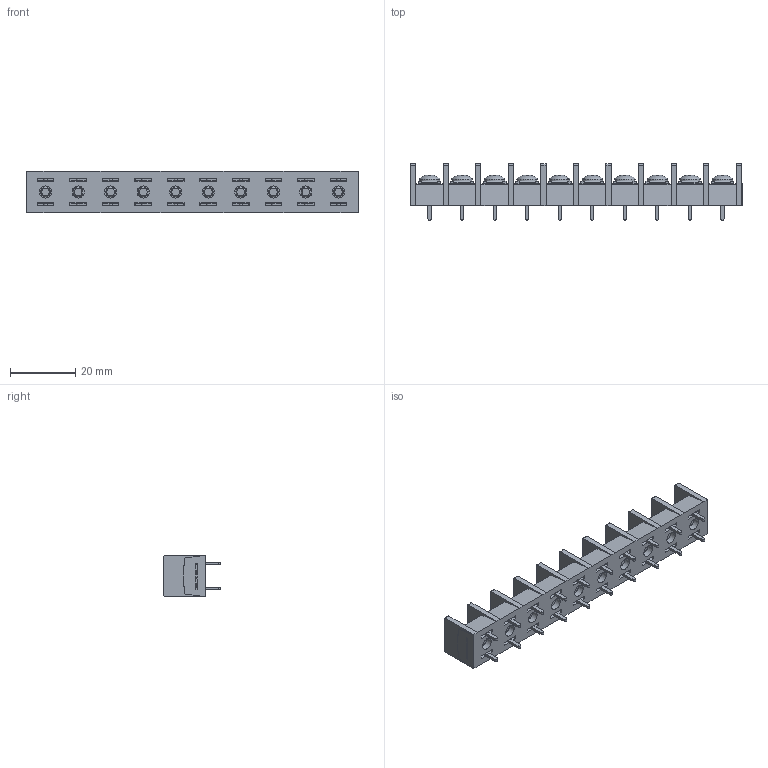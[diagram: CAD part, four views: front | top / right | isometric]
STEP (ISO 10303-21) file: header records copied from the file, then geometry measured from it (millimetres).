
FILE_DESCRIPTION(/* description */ ('Alibre Inc.'),/* implementation_level */ '2;1');
FILE_NAME(/* name */ 'export0',/* time_stamp */ '2015-10-23T18:06:09+09:00',/* author */ (''),/* organization */ (''),/* preprocessor_version */ 'ST-DEVELOPER v14',/* originating_system */ 'Alibre',/* authorisation */ '');
FILE_SCHEMA (('CONFIG_CONTROL_DESIGN'));
Length unit declared in the file: centimetre
Products named in the file (1): ID_1
Bounding box: 102 x 17.3 x 12.8 mm (x, y, z)
Volume: 9468.5 mm3; surface area: 11218.9 mm2
Topology: 1 solids, 171 shells, 3240 faces, 8310 edges, 5492 vertices
Faces by surface type: plane 2424, bspline 624, cylinder 112, cone 50, torus 20, sphere 10
Full cylindrical faces by diameter (mm): 3 x20, 3.7 x10, 4.6 x10, 6.3 x10
Entity records: 93501 total; most frequent: CARTESIAN_POINT 22537, ORIENTED_EDGE 16440, DIRECTION 9824, EDGE_CURVE 8220, VECTOR 6316, LINE 6316, VERTEX_POINT 5482, EDGE_LOOP 3540
